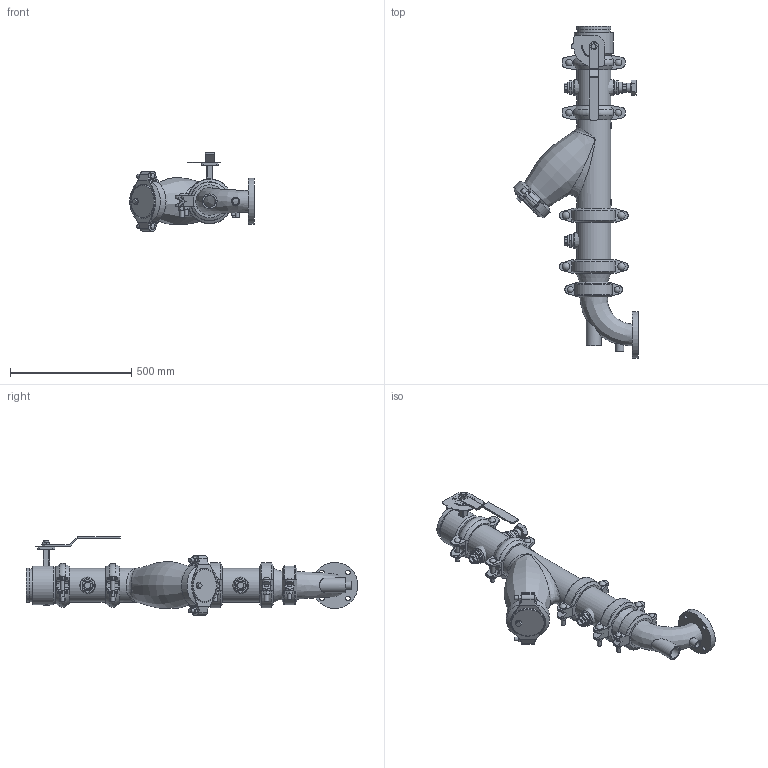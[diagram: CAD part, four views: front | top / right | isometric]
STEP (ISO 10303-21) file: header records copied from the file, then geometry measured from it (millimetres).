
FILE_DESCRIPTION(/* description */ ('VIC SVI PUMP DROP HORZ S/382 (OGSxFLG) (S/924-1.25)','CAx-IF Rec.Pracs.---Representation and Presentation of Product Manufacturing Information (PMI)---4.0---2014-10-13'),/* implementation_level */ '2;1');
FILE_NAME(/* name */ 'C:\Users\Vjadhav\AppData\Roaming\Autodesk\ApplicationPlugins\Victaulic.Temp\A562\Victaulic_IPS_Horizontal SVI_CL 150_Series 382 (OGSxFLG)_924 (1.25)_05.0x03.0 (125x80).stp',/* time_stamp */ '2022-02-28T19:58:22+05:00',/* author */ ('kkamble'),/* organization */ ('Victaulic'),/* preprocessor_version */ 'ST-DEVELOPER v17.2',/* originating_system */ 'Autodesk Inventor 2019',/* authorisation */ '');
FILE_SCHEMA (('AP242_MANAGED_MODEL_BASED_3D_ENGINEERING_MIM_LF { 1 0 10303 442 1 1 4 }'));
Length unit declared in the file: inch
Products named in the file (15): 382_924 (1.25)-05.0x03.0; PIPE-05.0; 107N-05.0; 732-05.0; 732-05.0_1; 07-05.0; 732-05.0_2; PIPE-05.2; 761-05.0; 924-04.0x01.25; 177N-04.0; 923-04.0x0.75; R100F-04.0x03.0; 050-05.0x04.0; 177N-05.0
Assembly tree (17 placements, depth 3):
  382_924 (1.25)-05.0x03.0
    PIPE-05.0
    107N-05.0  x2
    732-05.0
      732-05.0_1
      07-05.0
      732-05.0_2
    177N-05.0  x2
    PIPE-05.2
    761-05.0
    924-04.0x01.25
    923-04.0x0.75  x2
    177N-04.0
    R100F-04.0x03.0
    050-05.0x04.0
Bounding box: 514.35 x 1371.6 x 323.41 mm (x, y, z)
Volume: 10401578.7 mm3; surface area: 2336181 mm2
Topology: 16 solids, 20 shells, 1025 faces, 2647 edges, 1763 vertices
Faces by surface type: plane 551, cylinder 347, bspline 46, torus 36, cone 33, sphere 12
Full cylindrical faces by diameter (mm): 4.826 x10, 8.636 x4, 15.875 x14, 17.78 x4, 19.05 x6, 21.336 x1, 22.86 x1, 23.495 x2, 25.4 x3, 26.67 x4, 27.381 x4, 30.48 x4, 34.29 x1, 38.608 x1, 42.164 x1, 45.974 x6, 48.26 x1, 48.514 x1, 55.118 x1, 55.626 x3, 60.96 x1, 77.927 x1, 101.6 x1, 102.26 x2, 110.084 x2, 114.3 x5, 117.602 x1, 127.356 x1, 127.584 x1, 128.194 x4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
Entity records: 29370 total; most frequent: CARTESIAN_POINT 9056, DIRECTION 4119, ORIENTED_EDGE 3870, EDGE_CURVE 1935, AXIS2_PLACEMENT_3D 1557, VERTEX_POINT 1293, LINE 1005, VECTOR 1005
